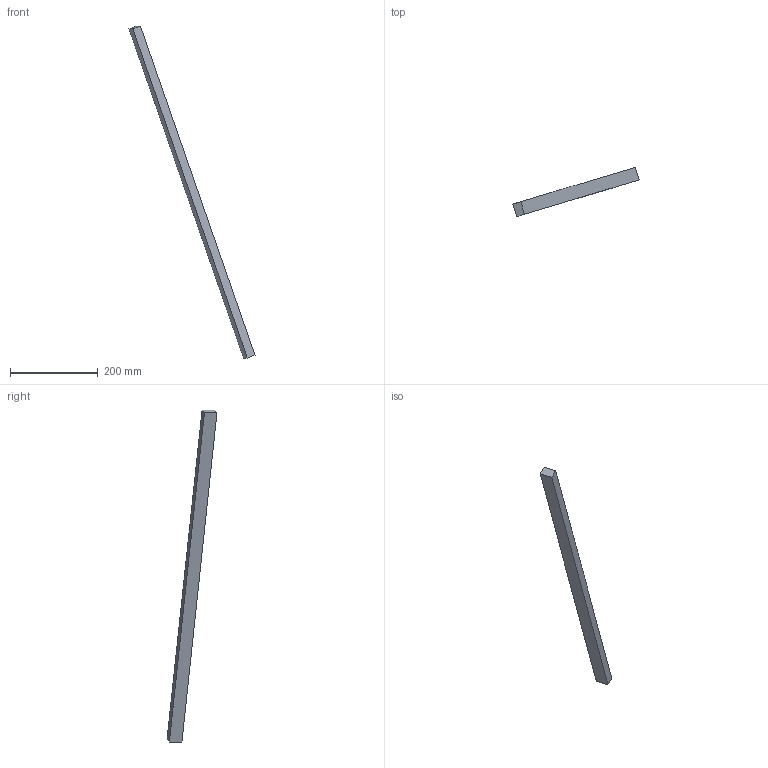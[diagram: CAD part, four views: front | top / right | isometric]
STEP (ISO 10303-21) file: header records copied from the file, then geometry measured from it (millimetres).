
FILE_DESCRIPTION(('FreeCAD Model'),'2;1');
FILE_NAME('Open CASCADE Shape Model','2026-09-12T00:35:30',('FreeCAD'),( 'FreeCAD'),'Open CASCADE STEP processor 7.8','FreeCAD','Unknown');
FILE_SCHEMA(('AUTOMOTIVE_DESIGN { 1 0 10303 214 1 1 1 1 }'));
Length unit declared in the file: millimetre
Products named in the file (1): Open CASCADE STEP translator 7.8 2
Bounding box: 288.4 x 114.18 x 758.59 mm (x, y, z)
Volume: 480000 mm3; surface area: 81200 mm2
Topology: 1 solids, 1 shells, 6 faces, 12 edges, 8 vertices
Faces by surface type: plane 6
Entity records: 166 total; most frequent: CARTESIAN_POINT 27, DIRECTION 26, ORIENTED_EDGE 24, EDGE_CURVE 12, LINE 12, VECTOR 12, VERTEX_POINT 8, AXIS2_PLACEMENT_3D 7
